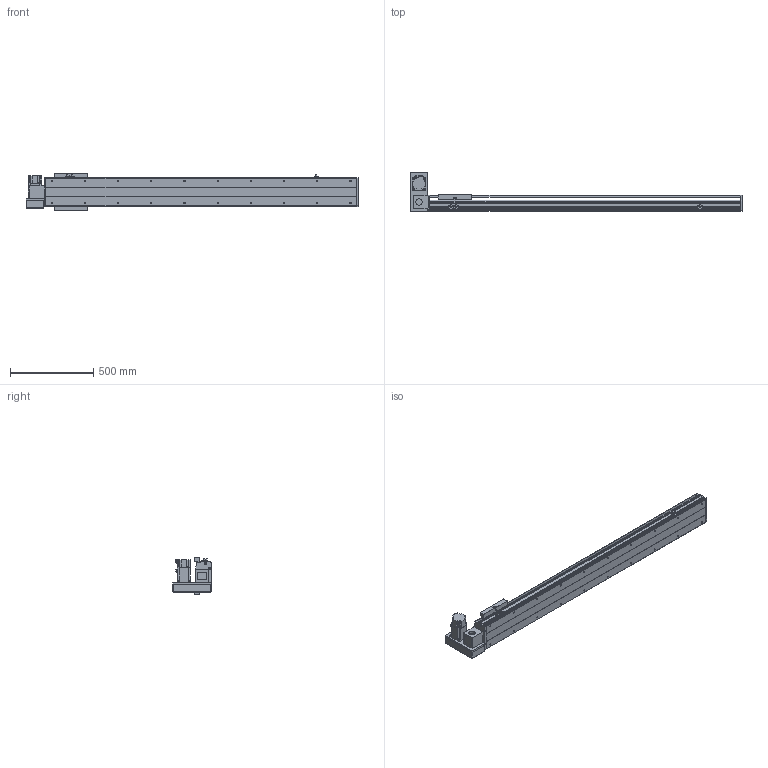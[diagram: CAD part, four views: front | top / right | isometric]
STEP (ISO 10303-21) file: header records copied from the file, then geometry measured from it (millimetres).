
FILE_DESCRIPTION(/* description */ ('STEP AP214'),/* implementation_level */ '2;1');
FILE_NAME(/* name */ 'PBS200-P40-S1500-LU-T75-C1-N(0)',/* time_stamp */ '2022-06-11T09:00:59+02:00',/* author */ ('License CC BY-ND 4.0'),/* organization */ ('CADENAS'),/* preprocessor_version */ 'ST-DEVELOPER v18.102',/* originating_system */ 'PARTsolutions',/* authorisation */ ' ');
FILE_SCHEMA (('AUTOMOTIVE_DESIGN {1 0 10303 214 3 1 1}'));
Length unit declared in the file: millimetre
Products named in the file (7): PBS200-P40-S1500-LU-T75-C1-N(0); PBS200_sensor; PBS200_plant; PBS200_sliser; T75-p1; PBS200T-LU_motors; PBS200-S1500()_body
Assembly tree (8 placements, depth 2):
  PBS200-P40-S1500-LU-T75-C1-N(0)
    PBS200_sensor  x3
    PBS200_plant
    PBS200_sliser
    T75-p1
    PBS200T-LU_motors
    PBS200-S1500()_body
Bounding box: 2000 x 231 x 221 mm (x, y, z)
Volume: 14359881 mm3; surface area: 2311592.3 mm2
Topology: 8 solids, 8 shells, 932 faces, 2394 edges, 1560 vertices
Faces by surface type: plane 578, cylinder 302, cone 52
Full cylindrical faces by diameter (mm): 2.459 x6, 3.242 x4, 4.5 x6, 4.917 x4, 5 x6, 6 x7, 6.6 x8, 6.647 x24, 8 x6, 10 x4, 12 x8, 38 x2, 40 x1, 70 x1
Entity records: 24821 total; most frequent: DIRECTION 4375, CARTESIAN_POINT 4228, ORIENTED_EDGE 4006, EDGE_CURVE 2003, AXIS2_PLACEMENT_3D 1531, VERTEX_POINT 1384, LINE 1313, VECTOR 1313
